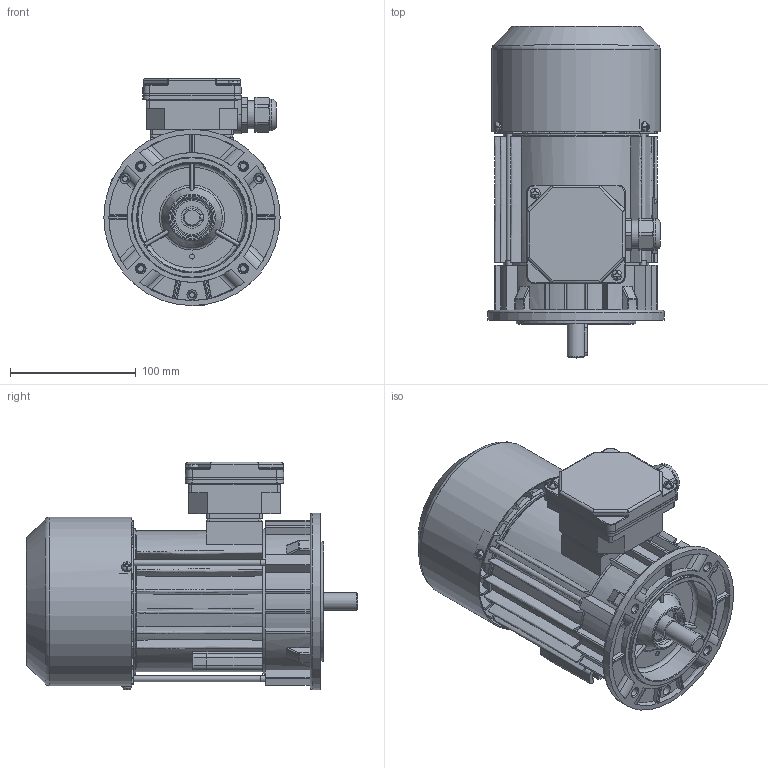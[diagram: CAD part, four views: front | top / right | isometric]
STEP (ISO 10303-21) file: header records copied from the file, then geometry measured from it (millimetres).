
FILE_DESCRIPTION( ( 'Unknown' ), '1' );
FILE_NAME( 'G:/Poczta Tk-1/STP/w.m.71/2SIE71/2SIEK71-.C1.stp', 'Unknown', ( 'K. Szlosek' ), ( 'BESEL S.A.' ), 'PSStep 17.0.49', 'Unknown', ' ' );
FILE_SCHEMA( ( 'AUTOMOTIVE_DESIGN { 1 0 10303 214 1 1 1 1 }' ) );
Length unit declared in the file: millimetre
Products named in the file (29): skrznka zaciskowa trójfazowa ; K4-2820 Uszczelka nr 2 Sh71,80; Dławnica M20x1,5; K2-0859 Podstawa skrzynki 6-cio zaciskowej; K2-0860 Pokrywka skrzynki zaciskowej; Assem1; K3-2975 Osłona przewietrznika Sh71-.B,C; K4-2320 Uszczelka nr 1 Sh71,80; K1-1194 Kadłub z zamkami Sh71-.C; K3-6469 Tarcza łożyskowa P S(E,M)h71-B,C; Wpust A5x5x25; Wkręt samogwintujący M4x8; Nitokołek A 2x6; k3-4489 Wał SKh71 x-2C1; Wkręt samogwintujący M4x16; K3-3984 Przewietrznik Sh71; Łożysko 6203; Śruba ściągająca E_M5x130; Tabliczka znamionowa 32x44; K1-1246 Tarcza kołnierzowa B14_1 w.m. 71
Assembly tree (44 placements, depth 3):
  Assem1
    K3-2975 Osłona przewietrznika Sh71-.B,C
    K4-2320 Uszczelka nr 1 Sh71,80
    K1-1194 Kadłub z zamkami Sh71-.C
    K3-6469 Tarcza łożyskowa P S(E,M)h71-B,C
    Wpust A5x5x25
    Wkręt samogwintujący M4x8  x3
    Nitokołek A 2x6  x2
    k3-4489 Wał SKh71 x-2C1
    Wkręt samogwintujący M4x16  x2
    K3-3984 Przewietrznik Sh71
    Łożysko 6203  x2
    Łożysko 6203  x2
    Łożysko 6203  x2
    Łożysko 6203  x2
    Łożysko 6203  x2
    Łożysko 6203  x2
    Łożysko 6203  x2
    Łożysko 6203  x2
    Łożysko 6203  x2
    Łożysko 6203  x2
    Śruba ściągająca E_M5x130  x3
    Tabliczka znamionowa 32x44
    K1-1246 Tarcza kołnierzowa B14_1 w.m. 71
    skrznka zaciskowa trójfazowa 
      K4-2820 Uszczelka nr 2 Sh71,80
      Dławnica M20x1,5
      K2-0859 Podstawa skrzynki 6-cio zaciskowej
      K2-0860 Pokrywka skrzynki zaciskowej
Bounding box: 140 x 263.5 x 180.57 mm (x, y, z)
Volume: 685279.8 mm3; surface area: 457657.2 mm2
Topology: 43 solids, 59 shells, 2461 faces, 6682 edges, 4284 vertices
Faces by surface type: plane 986, cylinder 718, bspline 345, torus 203, cone 161, sphere 48
Full cylindrical faces by diameter (mm): 2 x2, 2.4 x2, 3.7 x7, 3.8 x4, 4 x6, 4.134 x3, 4.5 x1, 4.6 x3, 4.8 x4, 5 x7, 5.5 x3, 6.8 x4, 7 x1, 8 x9, 14 x1, 15.9 x1, 16.1 x1, 16.5 x1, 17 x4, 17.4 x2, 18.376 x1, 18.38 x1, 20 x1, 22 x2, 22.3 x1, 22.5 x1, 23.1 x1, 24 x1, 24.498 x4, 25 x1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
Entity records: 143528 total; most frequent: CARTESIAN_POINT 69940, ORIENTED_EDGE 11876, DIRECTION 10629, EDGE_CURVE 5938, AXIS2_PLACEMENT_3D 4084, VERTEX_POINT 3955, EDGE_LOOP 2702, LINE 2461
